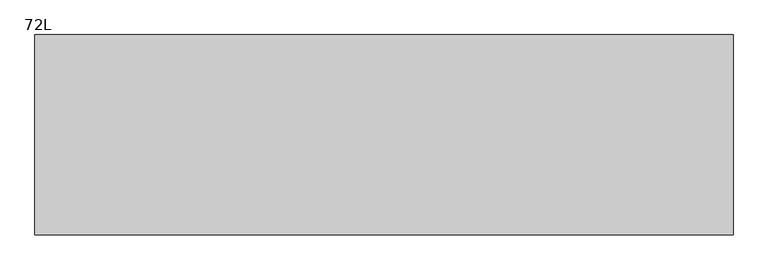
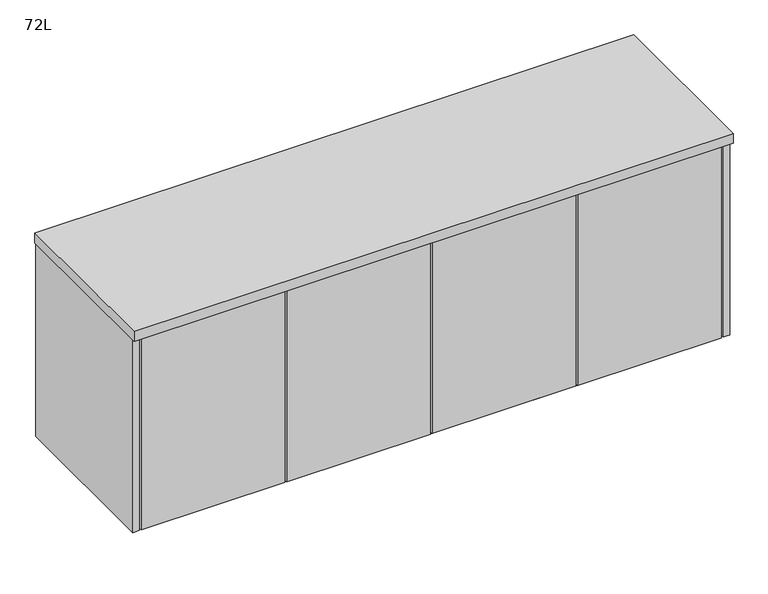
"""IFC4 building model written with IfcOpenShell, lengths in millimetres: furniture geometry, Steelcase Coalesse - Exponents Version 1 - Storage - Credenza : 72L."""

import ifcopenshell
import ifcopenshell.guid

model = None  # the IFC model being written
_history = None  # IfcOwnerHistory: only IFC2X3 demands one
_inside = {}  # id of a spatial element -> (the spatial element, [elements in it])
_under = {}  # id of a project, library or spatial element -> (it, [spatial elements below it])
_declared = {}  # id of a project -> (the project, [libraries it declares])
_typed = {}  # id of a type object -> (the type object, [elements of that type])
_made_of = {}  # id of a material, layer set ... -> (it, [elements and type objects made of it])


def new_model(schema):
    """Start an empty IFC model of exactly this schema.

    Asked for "IFC4X3", IfcOpenShell would pick the latest addendum, in which some entities
    have other attributes; the version numbers below select the first issue.
    IFC2X3 requires an IfcOwnerHistory on every rooted entity: one is made here for all.
    """
    global model, _history
    if schema == "IFC4X3":
        model = ifcopenshell.file(schema_version=(4, 3, 0, 0))
    else:
        model = ifcopenshell.file(schema=schema)
    _inside.clear()
    _under.clear()
    _declared.clear()
    _typed.clear()
    _made_of.clear()
    _history = None
    if model.schema == "IFC2X3":
        org = make("IfcOrganization", Name="unknown")
        user = make(
            "IfcPersonAndOrganization",
            ThePerson=make("IfcPerson", FamilyName="unknown"),
            TheOrganization=org,
        )
        app = make(
            "IfcApplication",
            ApplicationDeveloper=org,
            Version="unknown",
            ApplicationFullName="unknown",
            ApplicationIdentifier="unknown",
        )
        _history = make(
            "IfcOwnerHistory",
            OwningUser=user,
            OwningApplication=app,
            ChangeAction="ADDED",
            CreationDate=0,
        )
    return model


def make(cls, **values):
    """One entity of the class cls with the attributes given. An attribute that is None is left unset."""
    return model.create_entity(
        cls, **{name: value for name, value in values.items() if value is not None}
    )


def rooted(cls, **values):
    """An entity with a GlobalId (a new one), such as an element, a storey or a relation."""
    return make(cls, GlobalId=ifcopenshell.guid.new(), OwnerHistory=_history, **values)


def si_unit(unit_type, name, prefix=None):
    """IfcSIUnit, for example si_unit("LENGTHUNIT", "METRE", prefix="MILLI")."""
    return make("IfcSIUnit", UnitType=unit_type, Prefix=prefix, Name=name)


def assignment(units):
    """IfcUnitAssignment: the units of a project."""
    return None if units is None else make("IfcUnitAssignment", Units=units)


def point(xyz):
    """IfcCartesianPoint."""
    return None if xyz is None else make("IfcCartesianPoint", Coordinates=xyz)


def direction(xyz):
    """IfcDirection."""
    return None if xyz is None else make("IfcDirection", DirectionRatios=xyz)


def frame(location, z_axis=None, x_axis=None):
    """IfcAxis2Placement3D, a coordinate frame: its origin and axes. An axis left out is left unset."""
    return make(
        "IfcAxis2Placement3D",
        Location=point(location),
        Axis=direction(z_axis),
        RefDirection=direction(x_axis),
    )


def origin():
    """The frame at (0, 0, 0) with its axes left unset."""
    return frame((0.0, 0.0, 0.0))


def origin_with_axes():
    """The frame at (0, 0, 0) with the z axis (0, 0, 1) and the x axis (1, 0, 0) written out."""
    return frame((0.0, 0.0, 0.0), z_axis=(0.0, 0.0, 1.0), x_axis=(1.0, 0.0, 0.0))


def place(relative_to, where):
    """IfcLocalPlacement: puts the frame where relative to a parent placement (None: the world)."""
    return make(
        "IfcLocalPlacement", PlacementRelTo=relative_to, RelativePlacement=where
    )


def context(
    kind, dimensions, precision=None, world=None, true_north=None, identifier=None
):
    """IfcGeometricRepresentationContext, for example the 3D "Model" context."""
    return make(
        "IfcGeometricRepresentationContext",
        ContextIdentifier=identifier,
        ContextType=kind,
        CoordinateSpaceDimension=dimensions,
        Precision=precision,
        WorldCoordinateSystem=world,
        TrueNorth=true_north,
    )


def project(units=None, contexts=None):
    """IfcProject with its units and contexts."""
    return rooted(
        "IfcProject",
        Name="project",
        RepresentationContexts=contexts,
        UnitsInContext=assignment(units),
    )


def spatial(cls, under=None, at=None, **own):
    """A site, building, storey or space (cls), placed at a placement, below another one or the project."""
    s = rooted(cls, ObjectPlacement=at, **own)
    if under is not None:
        _under.setdefault(under.id(), (under, []))[1].append(s)
    return s


def polyline(points):
    """IfcPolyline through the points."""
    return make("IfcPolyline", Points=[point(p) for p in points])


def outline(outer, holes=None, kind="AREA"):
    """IfcArbitraryClosedProfileDef: a profile drawn as a closed curve; with holes, ...WithVoids."""
    if holes is None:
        return make("IfcArbitraryClosedProfileDef", ProfileType=kind, OuterCurve=outer)
    return make(
        "IfcArbitraryProfileDefWithVoids",
        ProfileType=kind,
        OuterCurve=outer,
        InnerCurves=holes,
    )


def extrude(swept, where, along, depth):
    """IfcExtrudedAreaSolid: the profile swept, set in the frame where, extruded along a direction by depth."""
    return make(
        "IfcExtrudedAreaSolid",
        SweptArea=swept,
        Position=where,
        ExtrudedDirection=direction(along),
        Depth=depth,
    )


def shape(context_of_items, identifier, shape_type, items):
    """IfcShapeRepresentation: the items that make up one representation, for example the "Body"."""
    return make(
        "IfcShapeRepresentation",
        ContextOfItems=context_of_items,
        RepresentationIdentifier=identifier,
        RepresentationType=shape_type,
        Items=items,
    )


def source(mapping_origin, context_of_items, identifier, shape_type, items):
    """IfcRepresentationMap: a shape defined once, which mapped items show again and again."""
    return make(
        "IfcRepresentationMap",
        MappingOrigin=mapping_origin,
        MappedRepresentation=shape(context_of_items, identifier, shape_type, items),
    )


def transform(
    local_origin,
    x_axis=None,
    y_axis=None,
    z_axis=None,
    scale=None,
    scale2=None,
    scale3=None,
    uniform=True,
):
    """IfcCartesianTransformationOperator3D, or its non-uniform kind. x_axis, y_axis, z_axis: its Axis1, 2, 3."""
    if uniform:
        return make(
            "IfcCartesianTransformationOperator3D",
            Axis1=direction(x_axis),
            Axis2=direction(y_axis),
            LocalOrigin=point(local_origin),
            Scale=scale,
            Axis3=direction(z_axis),
        )
    return make(
        "IfcCartesianTransformationOperator3DnonUniform",
        Axis1=direction(x_axis),
        Axis2=direction(y_axis),
        LocalOrigin=point(local_origin),
        Scale=scale,
        Axis3=direction(z_axis),
        Scale2=scale2,
        Scale3=scale3,
    )


def mapped(mapping_source, mapping_target):
    """IfcMappedItem: shows the shape of a source again, moved by a transform."""
    return make(
        "IfcMappedItem", MappingSource=mapping_source, MappingTarget=mapping_target
    )


def made_of(thing, what):
    """Note that an element or type object is made of a material, layer set ...; save() writes the relation."""
    if what is not None:
        _made_of.setdefault(what.id(), (what, []))[1].append(thing)
    return thing


def element(
    cls,
    number,
    at=None,
    inside=None,
    cuts=None,
    type_object=None,
    material=None,
    context=None,
    identifier="Body",
    shape_type=None,
    held_by="IfcProductDefinitionShape",
    body=None,
    shapes=None,
    **own,
):
    """One element of the class cls, such as IfcWall. Its Tag is "e" and its number.

    at: its placement. inside: the storey or other place that contains it. cuts: it is an
    opening in that element (IfcRelVoidsElement). A single representation is given by context,
    identifier, shape_type and body (its items); several are given by shapes. held_by: the class
    of the entity that holds the representations. save() writes the other relations.
    """
    e = rooted(cls, Tag="e%d" % number, ObjectPlacement=at, **own)
    if body is not None:
        shapes = [shape(context, identifier, shape_type, body)]
    if shapes is not None:
        e.Representation = make(held_by, Representations=shapes)
    if inside is not None:
        _inside.setdefault(inside.id(), (inside, []))[1].append(e)
    if cuts is not None:
        rooted(
            "IfcRelVoidsElement", RelatingBuildingElement=cuts, RelatedOpeningElement=e
        )
    if type_object is not None:
        _typed.setdefault(type_object.id(), (type_object, []))[1].append(e)
    return made_of(e, material)


def aggregate(whole, parts):
    """IfcRelAggregates: a whole, such as a stair, and the parts it consists of."""
    return rooted("IfcRelAggregates", RelatingObject=whole, RelatedObjects=parts)


def save(model, path):
    """Write the relations noted so far, then the file.

    IfcRelAggregates (storeys below a building ...), IfcRelContainedInSpatialStructure (elements
    in a storey), IfcRelDefinesByType, IfcRelAssociatesMaterial and IfcRelDeclares: one each for
    every whole, place, type object, material and project.
    """
    for whole, parts in _under.values():
        aggregate(whole, parts)
    for where, things in _inside.values():
        rooted(
            "IfcRelContainedInSpatialStructure",
            RelatedElements=things,
            RelatingStructure=where,
        )
    for kind, things in _typed.values():
        rooted("IfcRelDefinesByType", RelatedObjects=things, RelatingType=kind)
    for what, things in _made_of.values():
        rooted("IfcRelAssociatesMaterial", RelatedObjects=things, RelatingMaterial=what)
    for by, libraries in _declared.values():
        rooted("IfcRelDeclares", RelatingContext=by, RelatedDefinitions=libraries)
    model.write(path)


def furniture_72l_7181e602(model_context):
    return source(origin(), model_context, "Body", "SweptSolid", [
        extrude(outline(polyline([(468.249, 31.7499879), (468.249, 12.6999879), (28.575, 12.6999879), (28.575, 31.7499879), (468.249, 31.7499879)])), frame((0.0, 0.0, 76.2), z_axis=(0.0, 0.0, 1.0), x_axis=(1.0, 0.0, 0.0)), (0.0, 0.0, 1.0), 622.3000242),
        extrude(outline(polyline([(914.2729758, 31.7499879), (914.2729758, 12.6999879), (474.5989758, 12.6999879), (474.5989758, 31.7499879), (914.2729758, 31.7499879)])), frame((0.0, 0.0, 76.2), z_axis=(0.0, 0.0, 1.0), x_axis=(1.0, 0.0, 0.0)), (0.0, 0.0, 1.0), 622.3000242),
        extrude(outline(polyline([(1360.2969516, 31.7499879), (1360.2969516, 12.6999879), (920.6229516, 12.6999879), (920.6229516, 31.7499879), (1360.2969516, 31.7499879)])), frame((0.0, 0.0, 76.2), z_axis=(0.0, 0.0, 1.0), x_axis=(1.0, 0.0, 0.0)), (0.0, 0.0, 1.0), 622.3000242),
        extrude(outline(polyline([(1806.3209273, 31.7499879), (1806.3209273, 12.6999879), (1366.6469273, 12.6999879), (1366.6469273, 31.7499879), (1806.3209273, 31.7499879)])), frame((0.0, 0.0, 76.2), z_axis=(0.0, 0.0, 1.0), x_axis=(1.0, 0.0, 0.0)), (0.0, 0.0, 1.0), 622.3000242),
        extrude(outline(polyline([(1812.9250484, 450.8499879), (1812.9250484, 38.1), (22.2249992, 38.1), (22.2249992, 450.8499879), (1812.9250484, 450.8499879)])), frame((0.0, 0.0, 76.2), z_axis=(0.0, 0.0, 1.0), x_axis=(1.0, 0.0, 0.0)), (0.0, 0.0, 1.0), 628.65),
        extrude(outline(polyline([(1831.9750476, 527.0499879), (1831.9750476, 12.6999879), (1812.9250484, 12.6999879), (1812.9250484, 527.0499879), (1831.9750476, 527.0499879)])), frame((0.0, 0.0, 76.2), z_axis=(0.0, 0.0, 1.0), x_axis=(1.0, 0.0, 0.0)), (0.0, 0.0, 1.0), 628.65),
        extrude(outline(polyline([(22.2249992, 527.0499879), (22.2249992, 12.6999879), (3.1750001, 12.6999879), (3.1750001, 527.0499879), (22.2249992, 527.0499879)])), frame((0.0, 0.0, 76.2), z_axis=(0.0, 0.0, 1.0), x_axis=(1.0, 0.0, 0.0)), (0.0, 0.0, 1.0), 628.65),
        extrude(outline(polyline([(1835.15, 527.0499879), (1835.15, 0.0), (0.0, 0.0), (0.0, 527.0499879), (1835.15, 527.0499879)])), frame((0.0, 0.0, 704.85), z_axis=(0.0, 0.0, 1.0), x_axis=(1.0, 0.0, 0.0)), (0.0, 0.0, 1.0), 31.7500242),
        extrude(outline(polyline([(1739.9, 527.0499879), (1739.9, 107.9499879), (95.25, 107.9499879), (95.25, 527.0499879), (1739.9, 527.0499879)])), origin_with_axes(), (0.0, 0.0, 1.0), 76.2),
    ])


if __name__ == "__main__":
    model = new_model("IFC4")
    model_context = context("Model", 3, world=origin())
    ifc_project = project(units=[si_unit("LENGTHUNIT", "METRE", prefix="MILLI")], contexts=[model_context])
    site = spatial("IfcSite", under=ifc_project)
    building = spatial("IfcBuilding", under=site)
    placement = place(None, origin())
    furniture_72l_shape = furniture_72l_7181e602(model_context)
    element("IfcFurniture", 1, ObjectType="Steelcase Coalesse - Exponents Version 1 - Storage - Credenza : 72L", at=placement, inside=building, context=model_context, shape_type="MappedRepresentation", body=[
        mapped(furniture_72l_shape, transform((0.0, 0.0, 0.0), x_axis=(1.0, 0.0, 0.0), y_axis=(0.0, 1.0, 0.0), z_axis=(0.0, 0.0, 1.0))),
    ])
    save(model, "model.ifc")
